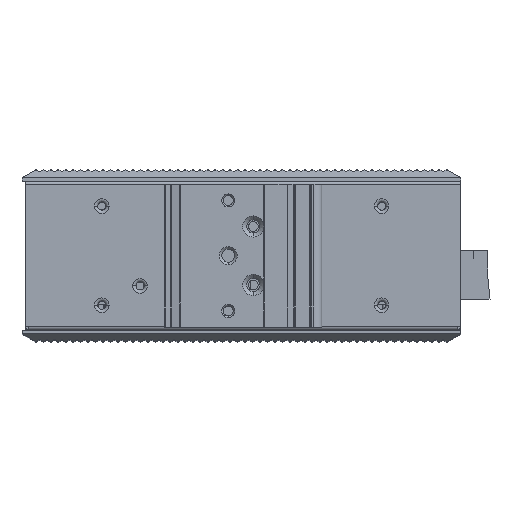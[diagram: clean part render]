
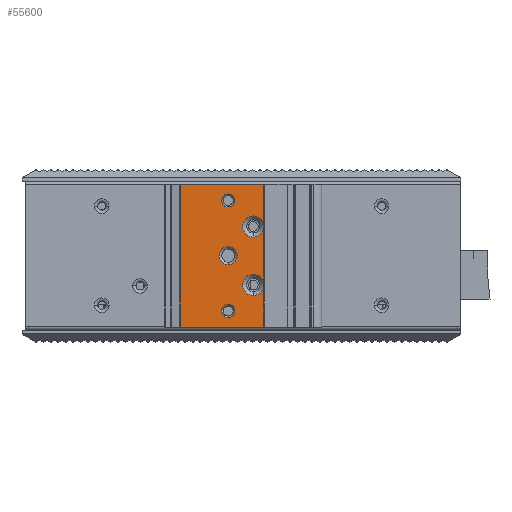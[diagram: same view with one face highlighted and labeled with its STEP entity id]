
A CAD part, top view. The second image highlights one B-rep face of the part: STEP entity #55600.
In plain terms, the highlighted planar face has unit normal (0, 0, 1).
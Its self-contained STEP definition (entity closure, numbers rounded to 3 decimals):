
#54300=DIRECTION('',(-1.,0.,0.));
#54301=VECTOR('',#54300,25.635);
#54302=CARTESIAN_POINT('',(6.03,-0.1,48.7));
#54303=LINE('',#54302,#54301);
#54511=CARTESIAN_POINT('',(2.83,30.9,48.7));
#54512=DIRECTION('',(0.,0.,-1.));
#54513=DIRECTION('',(0.,1.,0.));
#54514=AXIS2_PLACEMENT_3D('',#54511,#54512,#54513);
#54516=CARTESIAN_POINT('',(2.83,30.9,48.7));
#54517=DIRECTION('',(0.,0.,-1.));
#54518=DIRECTION('',(0.,-1.,0.));
#54519=AXIS2_PLACEMENT_3D('',#54516,#54517,#54518);
#54521=CARTESIAN_POINT('',(2.83,30.9,48.7));
#54522=DIRECTION('',(0.,0.,-1.));
#54523=DIRECTION('',(0.985,-0.175,0.));
#54524=AXIS2_PLACEMENT_3D('',#54521,#54522,#54523);
#54526=CARTESIAN_POINT('',(2.83,12.9,48.7));
#54527=DIRECTION('',(0.,0.,-1.));
#54528=DIRECTION('',(0.,1.,0.));
#54529=AXIS2_PLACEMENT_3D('',#54526,#54527,#54528);
#54531=CARTESIAN_POINT('',(2.83,12.9,48.7));
#54532=DIRECTION('',(0.,0.,-1.));
#54533=DIRECTION('',(0.,-1.,0.));
#54534=AXIS2_PLACEMENT_3D('',#54531,#54532,#54533);
#54536=CARTESIAN_POINT('',(2.83,12.9,48.7));
#54537=DIRECTION('',(0.,0.,-1.));
#54538=DIRECTION('',(0.985,-0.175,0.));
#54539=AXIS2_PLACEMENT_3D('',#54536,#54537,#54538);
#54541=DIRECTION('',(-1.,0.,0.));
#54542=VECTOR('',#54541,25.635);
#54543=CARTESIAN_POINT('',(6.03,43.9,48.7));
#54544=LINE('',#54543,#54542);
#54545=CARTESIAN_POINT('',(-4.87,21.9,48.7));
#54546=DIRECTION('',(0.,0.,-1.));
#54547=DIRECTION('',(0.,1.,0.));
#54548=AXIS2_PLACEMENT_3D('',#54545,#54546,#54547);
#54550=CARTESIAN_POINT('',(-4.87,21.9,48.7));
#54551=DIRECTION('',(0.,0.,-1.));
#54552=DIRECTION('',(0.,-1.,0.));
#54553=AXIS2_PLACEMENT_3D('',#54550,#54551,#54552);
#54555=CARTESIAN_POINT('',(-4.87,4.9,48.7));
#54556=DIRECTION('',(0.,0.,-1.));
#54557=DIRECTION('',(0.,1.,0.));
#54558=AXIS2_PLACEMENT_3D('',#54555,#54556,#54557);
#54560=CARTESIAN_POINT('',(-4.87,4.9,48.7));
#54561=DIRECTION('',(0.,0.,-1.));
#54562=DIRECTION('',(0.,-1.,0.));
#54563=AXIS2_PLACEMENT_3D('',#54560,#54561,#54562);
#54565=CARTESIAN_POINT('',(-4.87,38.9,48.7));
#54566=DIRECTION('',(0.,0.,-1.));
#54567=DIRECTION('',(0.,1.,0.));
#54568=AXIS2_PLACEMENT_3D('',#54565,#54566,#54567);
#54570=CARTESIAN_POINT('',(-4.87,38.9,48.7));
#54571=DIRECTION('',(0.,0.,-1.));
#54572=DIRECTION('',(0.,-1.,0.));
#54573=AXIS2_PLACEMENT_3D('',#54570,#54571,#54572);
#54588=DIRECTION('',(0.,-1.,0.));
#54589=VECTOR('',#54588,16.864);
#54590=CARTESIAN_POINT('',(6.03,30.332,48.7));
#54591=LINE('',#54590,#54589);
#54592=CARTESIAN_POINT('',(6.03,31.468,48.7));
#54599=DIRECTION('',(0.,-1.,0.));
#54600=VECTOR('',#54599,12.432);
#54601=CARTESIAN_POINT('',(6.03,43.9,48.7));
#54602=LINE('',#54601,#54600);
#54607=DIRECTION('',(0.,-1.,0.));
#54608=VECTOR('',#54607,12.432);
#54609=CARTESIAN_POINT('',(6.03,12.332,48.7));
#54610=LINE('',#54609,#54608);
#54616=CARTESIAN_POINT('',(6.03,12.332,48.7));
#54825=DIRECTION('',(0.,1.,0.));
#54826=VECTOR('',#54825,44.);
#54827=CARTESIAN_POINT('',(-19.605,-0.1,48.7));
#54828=LINE('',#54827,#54826);
#55188=CARTESIAN_POINT('',(6.03,-0.1,48.7));
#55189=CARTESIAN_POINT('',(-19.605,-0.1,48.7));
#55190=VERTEX_POINT('',#55188);
#55191=VERTEX_POINT('',#55189);
#55192=CARTESIAN_POINT('',(6.03,30.332,48.7));
#55193=CARTESIAN_POINT('',(6.03,13.468,48.7));
#55194=VERTEX_POINT('',#55192);
#55195=VERTEX_POINT('',#55193);
#55200=VERTEX_POINT('',#54592);
#55201=VERTEX_POINT('',#54616);
#55206=CARTESIAN_POINT('',(-19.605,43.9,48.7));
#55207=VERTEX_POINT('',#55206);
#55208=CARTESIAN_POINT('',(2.83,34.15,48.7));
#55209=VERTEX_POINT('',#55208);
#55210=CARTESIAN_POINT('',(2.83,27.65,48.7));
#55211=VERTEX_POINT('',#55210);
#55212=CARTESIAN_POINT('',(6.03,43.9,48.7));
#55213=VERTEX_POINT('',#55212);
#55214=CARTESIAN_POINT('',(2.83,16.15,48.7));
#55215=VERTEX_POINT('',#55214);
#55224=CARTESIAN_POINT('',(2.83,9.65,48.7));
#55225=VERTEX_POINT('',#55224);
#55228=CARTESIAN_POINT('',(-4.87,24.65,48.7));
#55229=CARTESIAN_POINT('',(-4.87,19.15,48.7));
#55230=VERTEX_POINT('',#55228);
#55231=VERTEX_POINT('',#55229);
#55244=CARTESIAN_POINT('',(-4.87,6.9,48.7));
#55245=CARTESIAN_POINT('',(-4.87,2.9,48.7));
#55246=VERTEX_POINT('',#55244);
#55247=VERTEX_POINT('',#55245);
#55266=CARTESIAN_POINT('',(-4.87,40.9,48.7));
#55267=CARTESIAN_POINT('',(-4.87,36.9,48.7));
#55268=VERTEX_POINT('',#55266);
#55269=VERTEX_POINT('',#55267);
#55552=CARTESIAN_POINT('',(6.23,48.3,48.7));
#55553=DIRECTION('',(0.,0.,-1.));
#55554=DIRECTION('',(-1.,0.,0.));
#55555=AXIS2_PLACEMENT_3D('',#55552,#55553,#55554);
#55556=PLANE('',#55555);
#55558=ORIENTED_EDGE('',*,*,#55557,.F.);
#55560=ORIENTED_EDGE('',*,*,#55559,.F.);
#55562=ORIENTED_EDGE('',*,*,#55561,.F.);
#55564=ORIENTED_EDGE('',*,*,#55563,.T.);
#55566=ORIENTED_EDGE('',*,*,#55565,.F.);
#55568=ORIENTED_EDGE('',*,*,#55567,.F.);
#55570=ORIENTED_EDGE('',*,*,#55569,.F.);
#55572=ORIENTED_EDGE('',*,*,#55571,.T.);
#55573=ORIENTED_EDGE('',*,*,#55455,.T.);
#55575=ORIENTED_EDGE('',*,*,#55574,.T.);
#55577=ORIENTED_EDGE('',*,*,#55576,.F.);
#55579=ORIENTED_EDGE('',*,*,#55578,.T.);
#55580=EDGE_LOOP('',(#55558,#55560,#55562,#55564,#55566,#55568,#55570,#55572,
#55573,#55575,#55577,#55579));
#55581=FACE_OUTER_BOUND('',#55580,.F.);
#55583=ORIENTED_EDGE('',*,*,#55582,.F.);
#55585=ORIENTED_EDGE('',*,*,#55584,.F.);
#55586=EDGE_LOOP('',(#55583,#55585));
#55587=FACE_BOUND('',#55586,.F.);
#55589=ORIENTED_EDGE('',*,*,#55588,.F.);
#55591=ORIENTED_EDGE('',*,*,#55590,.F.);
#55592=EDGE_LOOP('',(#55589,#55591));
#55593=FACE_BOUND('',#55592,.F.);
#55595=ORIENTED_EDGE('',*,*,#55594,.F.);
#55597=ORIENTED_EDGE('',*,*,#55596,.F.);
#55598=EDGE_LOOP('',(#55595,#55597));
#55599=FACE_BOUND('',#55598,.F.);
#55600=ADVANCED_FACE('',(#55581,#55587,#55593,#55599),#55556,.F.);
#54515=CIRCLE('',#54514,3.25);
#54520=CIRCLE('',#54519,3.25);
#54525=CIRCLE('',#54524,3.25);
#54530=CIRCLE('',#54529,3.25);
#54535=CIRCLE('',#54534,3.25);
#54540=CIRCLE('',#54539,3.25);
#54549=CIRCLE('',#54548,2.75);
#54554=CIRCLE('',#54553,2.75);
#54559=CIRCLE('',#54558,2.);
#54564=CIRCLE('',#54563,2.);
#54569=CIRCLE('',#54568,2.);
#54574=CIRCLE('',#54573,2.);
#55455=EDGE_CURVE('',#55190,#55191,#54303,.T.);
#55557=EDGE_CURVE('',#55209,#55200,#54515,.T.);
#55559=EDGE_CURVE('',#55211,#55209,#54520,.T.);
#55561=EDGE_CURVE('',#55194,#55211,#54525,.T.);
#55563=EDGE_CURVE('',#55194,#55195,#54591,.T.);
#55565=EDGE_CURVE('',#55215,#55195,#54530,.T.);
#55567=EDGE_CURVE('',#55225,#55215,#54535,.T.);
#55569=EDGE_CURVE('',#55201,#55225,#54540,.T.);
#55571=EDGE_CURVE('',#55201,#55190,#54610,.T.);
#55574=EDGE_CURVE('',#55191,#55207,#54828,.T.);
#55576=EDGE_CURVE('',#55213,#55207,#54544,.T.);
#55578=EDGE_CURVE('',#55213,#55200,#54602,.T.);
#55582=EDGE_CURVE('',#55230,#55231,#54549,.T.);
#55584=EDGE_CURVE('',#55231,#55230,#54554,.T.);
#55588=EDGE_CURVE('',#55246,#55247,#54559,.T.);
#55590=EDGE_CURVE('',#55247,#55246,#54564,.T.);
#55594=EDGE_CURVE('',#55268,#55269,#54569,.T.);
#55596=EDGE_CURVE('',#55269,#55268,#54574,.T.);
